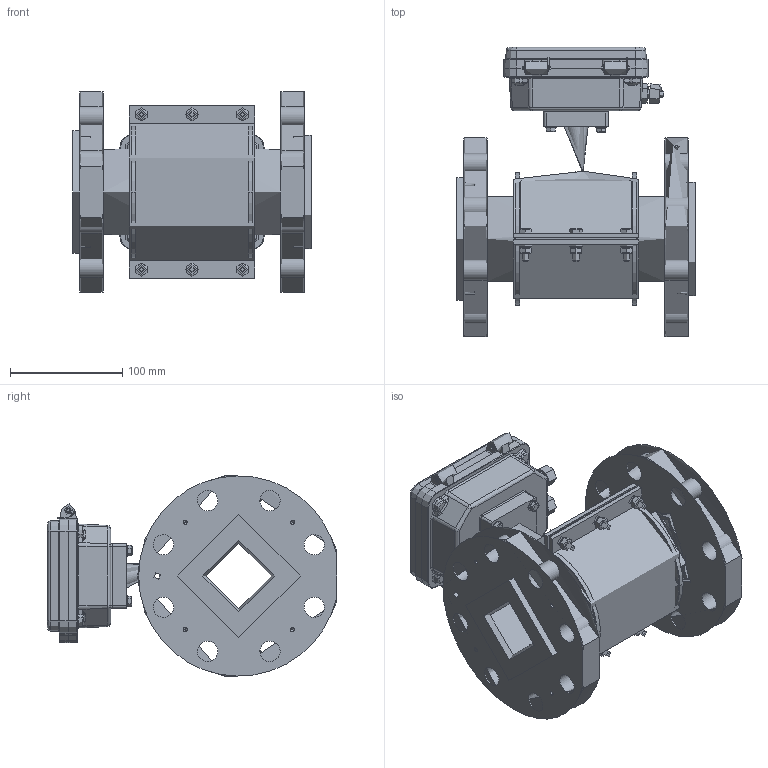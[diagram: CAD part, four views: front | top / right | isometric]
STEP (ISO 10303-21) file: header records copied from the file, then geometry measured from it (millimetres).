
FILE_DESCRIPTION(('STEP AP214'), '1');
FILE_NAME('Âçëåò ÝÐ ÏÐÎÔÈ DN65 Ôëàíåö', '', ('UNSPECIFIED'), ('UNSPECIFIED'), 'ASCON STEP Converter 1.6', 'ASCON Math Kernel', '');
FILE_SCHEMA(('AUTOMOTIVE_DESIGN { 1 0 10303 214 3 1 1}'));
Length unit declared in the file: millimetre
Products named in the file (1): 婽挭.407212.031-031.09
Bounding box: 212 x 257.21 x 178.49 mm (x, y, z)
Topology: 5 solids, 10 shells, 1377 faces, 3336 edges, 2028 vertices
Faces by surface type: plane 589, cylinder 426, cone 181, torus 141, bspline 38, sphere 2
Full cylindrical faces by diameter (mm): 0.8 x2, 2 x2, 3 x4, 3.242 x14, 3.3 x2, 3.7 x8, 4 x10, 4.134 x2, 5 x1, 5.5 x1, 6 x16, 6.3 x2, 6.4 x6, 7 x16, 7.5 x2, 8 x2, 10 x4, 11 x6, 12 x8, 12.5 x2, 16.5 x2, 18 x17, 19 x1, 20 x1, 21 x1, 25 x1, 30 x1, 58 x1, 75 x2, 76 x1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
Entity records: 71804 total; most frequent: CARTESIAN_POINT 24530, DIRECTION 6691, ORIENTED_EDGE 5970, EDGE_CURVE 2985, AXIS2_PLACEMENT_3D 2668, VERTEX_POINT 1994, EDGE_LOOP 1879, FACE_BOUND 1430
